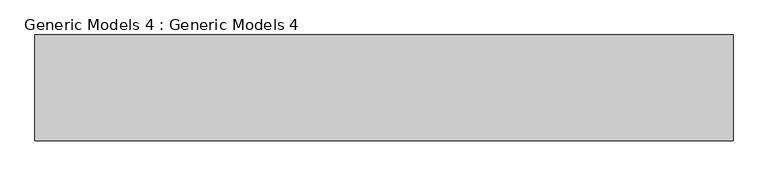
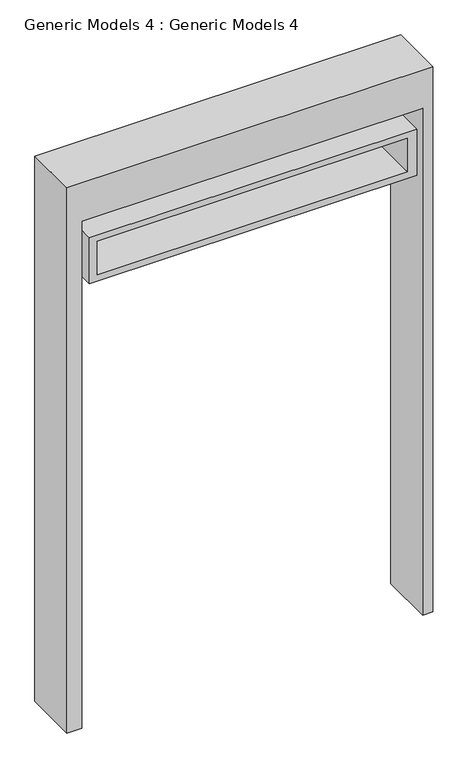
"""IFC4 building model written with IfcOpenShell, lengths in millimetres: proxy geometry, Generic Models 4 : Generic Models 4."""

import ifcopenshell
import ifcopenshell.guid

model = None  # the IFC model being written
_history = None  # IfcOwnerHistory: only IFC2X3 demands one
_inside = {}  # id of a spatial element -> (the spatial element, [elements in it])
_under = {}  # id of a project, library or spatial element -> (it, [spatial elements below it])
_declared = {}  # id of a project -> (the project, [libraries it declares])
_typed = {}  # id of a type object -> (the type object, [elements of that type])
_made_of = {}  # id of a material, layer set ... -> (it, [elements and type objects made of it])


def new_model(schema):
    """Start an empty IFC model of exactly this schema.

    Asked for "IFC4X3", IfcOpenShell would pick the latest addendum, in which some entities
    have other attributes; the version numbers below select the first issue.
    IFC2X3 requires an IfcOwnerHistory on every rooted entity: one is made here for all.
    """
    global model, _history
    if schema == "IFC4X3":
        model = ifcopenshell.file(schema_version=(4, 3, 0, 0))
    else:
        model = ifcopenshell.file(schema=schema)
    _inside.clear()
    _under.clear()
    _declared.clear()
    _typed.clear()
    _made_of.clear()
    _history = None
    if model.schema == "IFC2X3":
        org = make("IfcOrganization", Name="unknown")
        user = make(
            "IfcPersonAndOrganization",
            ThePerson=make("IfcPerson", FamilyName="unknown"),
            TheOrganization=org,
        )
        app = make(
            "IfcApplication",
            ApplicationDeveloper=org,
            Version="unknown",
            ApplicationFullName="unknown",
            ApplicationIdentifier="unknown",
        )
        _history = make(
            "IfcOwnerHistory",
            OwningUser=user,
            OwningApplication=app,
            ChangeAction="ADDED",
            CreationDate=0,
        )
    return model


def make(cls, **values):
    """One entity of the class cls with the attributes given. An attribute that is None is left unset."""
    return model.create_entity(
        cls, **{name: value for name, value in values.items() if value is not None}
    )


def rooted(cls, **values):
    """An entity with a GlobalId (a new one), such as an element, a storey or a relation."""
    return make(cls, GlobalId=ifcopenshell.guid.new(), OwnerHistory=_history, **values)


def si_unit(unit_type, name, prefix=None):
    """IfcSIUnit, for example si_unit("LENGTHUNIT", "METRE", prefix="MILLI")."""
    return make("IfcSIUnit", UnitType=unit_type, Prefix=prefix, Name=name)


def assignment(units):
    """IfcUnitAssignment: the units of a project."""
    return None if units is None else make("IfcUnitAssignment", Units=units)


def point(xyz):
    """IfcCartesianPoint."""
    return None if xyz is None else make("IfcCartesianPoint", Coordinates=xyz)


def direction(xyz):
    """IfcDirection."""
    return None if xyz is None else make("IfcDirection", DirectionRatios=xyz)


def frame(location, z_axis=None, x_axis=None):
    """IfcAxis2Placement3D, a coordinate frame: its origin and axes. An axis left out is left unset."""
    return make(
        "IfcAxis2Placement3D",
        Location=point(location),
        Axis=direction(z_axis),
        RefDirection=direction(x_axis),
    )


def origin():
    """The frame at (0, 0, 0) with its axes left unset."""
    return frame((0.0, 0.0, 0.0))


def place(relative_to, where):
    """IfcLocalPlacement: puts the frame where relative to a parent placement (None: the world)."""
    return make(
        "IfcLocalPlacement", PlacementRelTo=relative_to, RelativePlacement=where
    )


def context(
    kind, dimensions, precision=None, world=None, true_north=None, identifier=None
):
    """IfcGeometricRepresentationContext, for example the 3D "Model" context."""
    return make(
        "IfcGeometricRepresentationContext",
        ContextIdentifier=identifier,
        ContextType=kind,
        CoordinateSpaceDimension=dimensions,
        Precision=precision,
        WorldCoordinateSystem=world,
        TrueNorth=true_north,
    )


def project(units=None, contexts=None):
    """IfcProject with its units and contexts."""
    return rooted(
        "IfcProject",
        Name="project",
        RepresentationContexts=contexts,
        UnitsInContext=assignment(units),
    )


def spatial(cls, under=None, at=None, **own):
    """A site, building, storey or space (cls), placed at a placement, below another one or the project."""
    s = rooted(cls, ObjectPlacement=at, **own)
    if under is not None:
        _under.setdefault(under.id(), (under, []))[1].append(s)
    return s


def polyline(points):
    """IfcPolyline through the points."""
    return make("IfcPolyline", Points=[point(p) for p in points])


def outline(outer, holes=None, kind="AREA"):
    """IfcArbitraryClosedProfileDef: a profile drawn as a closed curve; with holes, ...WithVoids."""
    if holes is None:
        return make("IfcArbitraryClosedProfileDef", ProfileType=kind, OuterCurve=outer)
    return make(
        "IfcArbitraryProfileDefWithVoids",
        ProfileType=kind,
        OuterCurve=outer,
        InnerCurves=holes,
    )


def extrude(swept, where, along, depth):
    """IfcExtrudedAreaSolid: the profile swept, set in the frame where, extruded along a direction by depth."""
    return make(
        "IfcExtrudedAreaSolid",
        SweptArea=swept,
        Position=where,
        ExtrudedDirection=direction(along),
        Depth=depth,
    )


def shape(context_of_items, identifier, shape_type, items):
    """IfcShapeRepresentation: the items that make up one representation, for example the "Body"."""
    return make(
        "IfcShapeRepresentation",
        ContextOfItems=context_of_items,
        RepresentationIdentifier=identifier,
        RepresentationType=shape_type,
        Items=items,
    )


def source(mapping_origin, context_of_items, identifier, shape_type, items):
    """IfcRepresentationMap: a shape defined once, which mapped items show again and again."""
    return make(
        "IfcRepresentationMap",
        MappingOrigin=mapping_origin,
        MappedRepresentation=shape(context_of_items, identifier, shape_type, items),
    )


def transform(
    local_origin,
    x_axis=None,
    y_axis=None,
    z_axis=None,
    scale=None,
    scale2=None,
    scale3=None,
    uniform=True,
):
    """IfcCartesianTransformationOperator3D, or its non-uniform kind. x_axis, y_axis, z_axis: its Axis1, 2, 3."""
    if uniform:
        return make(
            "IfcCartesianTransformationOperator3D",
            Axis1=direction(x_axis),
            Axis2=direction(y_axis),
            LocalOrigin=point(local_origin),
            Scale=scale,
            Axis3=direction(z_axis),
        )
    return make(
        "IfcCartesianTransformationOperator3DnonUniform",
        Axis1=direction(x_axis),
        Axis2=direction(y_axis),
        LocalOrigin=point(local_origin),
        Scale=scale,
        Axis3=direction(z_axis),
        Scale2=scale2,
        Scale3=scale3,
    )


def mapped(mapping_source, mapping_target):
    """IfcMappedItem: shows the shape of a source again, moved by a transform."""
    return make(
        "IfcMappedItem", MappingSource=mapping_source, MappingTarget=mapping_target
    )


def made_of(thing, what):
    """Note that an element or type object is made of a material, layer set ...; save() writes the relation."""
    if what is not None:
        _made_of.setdefault(what.id(), (what, []))[1].append(thing)
    return thing


def element(
    cls,
    number,
    at=None,
    inside=None,
    cuts=None,
    type_object=None,
    material=None,
    context=None,
    identifier="Body",
    shape_type=None,
    held_by="IfcProductDefinitionShape",
    body=None,
    shapes=None,
    **own,
):
    """One element of the class cls, such as IfcWall. Its Tag is "e" and its number.

    at: its placement. inside: the storey or other place that contains it. cuts: it is an
    opening in that element (IfcRelVoidsElement). A single representation is given by context,
    identifier, shape_type and body (its items); several are given by shapes. held_by: the class
    of the entity that holds the representations. save() writes the other relations.
    """
    e = rooted(cls, Tag="e%d" % number, ObjectPlacement=at, **own)
    if body is not None:
        shapes = [shape(context, identifier, shape_type, body)]
    if shapes is not None:
        e.Representation = make(held_by, Representations=shapes)
    if inside is not None:
        _inside.setdefault(inside.id(), (inside, []))[1].append(e)
    if cuts is not None:
        rooted(
            "IfcRelVoidsElement", RelatingBuildingElement=cuts, RelatedOpeningElement=e
        )
    if type_object is not None:
        _typed.setdefault(type_object.id(), (type_object, []))[1].append(e)
    return made_of(e, material)


def aggregate(whole, parts):
    """IfcRelAggregates: a whole, such as a stair, and the parts it consists of."""
    return rooted("IfcRelAggregates", RelatingObject=whole, RelatedObjects=parts)


def save(model, path):
    """Write the relations noted so far, then the file.

    IfcRelAggregates (storeys below a building ...), IfcRelContainedInSpatialStructure (elements
    in a storey), IfcRelDefinesByType, IfcRelAssociatesMaterial and IfcRelDeclares: one each for
    every whole, place, type object, material and project.
    """
    for whole, parts in _under.values():
        aggregate(whole, parts)
    for where, things in _inside.values():
        rooted(
            "IfcRelContainedInSpatialStructure",
            RelatedElements=things,
            RelatingStructure=where,
        )
    for kind, things in _typed.values():
        rooted("IfcRelDefinesByType", RelatedObjects=things, RelatingType=kind)
    for what, things in _made_of.values():
        rooted("IfcRelAssociatesMaterial", RelatedObjects=things, RelatingMaterial=what)
    for by, libraries in _declared.values():
        rooted("IfcRelDeclares", RelatingContext=by, RelatedDefinitions=libraries)
    model.write(path)


def generic_models_4_generic_models_4_7a945247(model_context):
    return source(origin(), model_context, "Body", "SweptSolid", [
        extrude(outline(polyline([(2963.5829413, 35551.6259926), (360.0, 35551.6259926), (360.0, 35617.9045275), (2780.0, 35617.9045275), (2780.0, 37157.9045275), (360.0, 37157.9045275), (360.0, 37204.1830624), (2963.5829413, 37204.1830624), (2963.5829413, 35551.6259926)])), frame((0.0, 28193.7215248, 0.0), z_axis=(0.0, 1.0, 0.0), x_axis=(0.0, 0.0, 1.0)), (0.0, 0.0, 1.0), 250.0),
        extrude(outline(polyline([(2470.0, 35652.9045275), (2470.0, 37132.9045275), (2690.0, 37132.9045275), (2690.0, 35652.9045275), (2470.0, 35652.9045275)]), holes=[polyline([(2661.42938, 37089.2732688), (2501.42938, 37089.2732688), (2501.42938, 35689.2732688), (2661.42938, 35689.2732688), (2661.42938, 37089.2732688)])]), frame((0.0, 28193.7215248, 0.0), z_axis=(0.0, 1.0, 0.0), x_axis=(0.0, 0.0, 1.0)), (0.0, 0.0, 1.0), 250.0),
    ])


if __name__ == "__main__":
    model = new_model("IFC4")
    model_context = context("Model", 3, world=origin())
    ifc_project = project(units=[si_unit("LENGTHUNIT", "METRE", prefix="MILLI")], contexts=[model_context])
    site = spatial("IfcSite", under=ifc_project)
    building = spatial("IfcBuilding", under=site)
    placement = place(None, origin())
    generic_models_4_generic_models_4_shape = generic_models_4_generic_models_4_7a945247(model_context)
    element("IfcBuildingElementProxy", 1, Name="Generic Models 4 : Generic Models 4", ObjectType="Generic Models 4 : Generic Models 4", at=placement, inside=building, context=model_context, shape_type="MappedRepresentation", body=[
        mapped(generic_models_4_generic_models_4_shape, transform((0.0, 0.0, 0.0), x_axis=(1.0, 0.0, 0.0), y_axis=(0.0, 1.0, 0.0), z_axis=(0.0, 0.0, 1.0))),
    ])
    save(model, "model.ifc")
